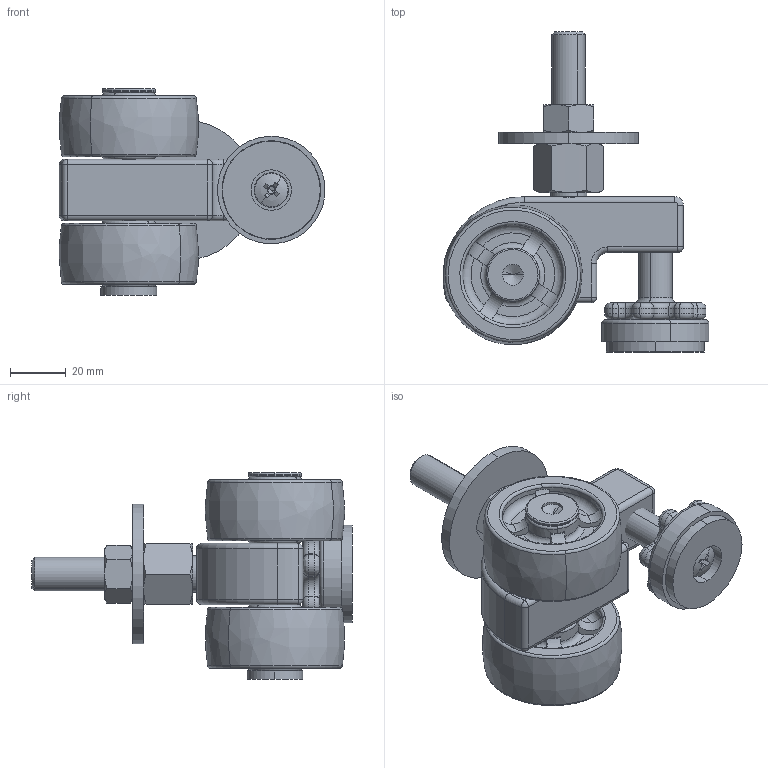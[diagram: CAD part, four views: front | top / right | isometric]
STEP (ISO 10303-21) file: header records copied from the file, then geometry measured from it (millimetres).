
FILE_DESCRIPTION (( 'STEP AP203' ), '1' );
FILE_NAME ('C03-2-400S.STEP', '2024-08-15T09:24:06', ( 'daohangxitong.com' ), ( 'daohangxitong.com' ), 'SwSTEP 2.0', 'SolidWorks 2020', '' );
FILE_SCHEMA (( 'CONFIG_CONTROL_DESIGN' ));
Length unit declared in the file: millimetre
Products named in the file (1): C03-2-400S
Bounding box: 95.21 x 114.6 x 74 mm (x, y, z)
Volume: 161938.6 mm3; surface area: 57238 mm2
Topology: 12 solids, 12 shells, 489 faces, 1177 edges, 713 vertices
Faces by surface type: plane 152, cylinder 141, torus 124, cone 48, bspline 14, sphere 10
Entity records: 16545 total; most frequent: CARTESIAN_POINT 5179, DIRECTION 2493, ORIENTED_EDGE 2320, EDGE_CURVE 1160, AXIS2_PLACEMENT_3D 1063, VERTEX_POINT 712, CIRCLE 587, EDGE_LOOP 528
